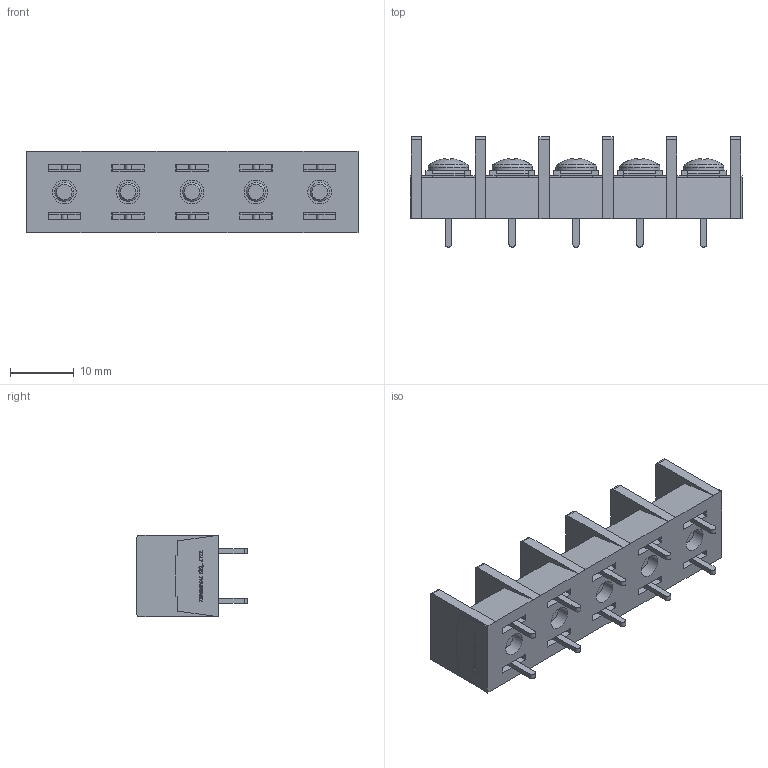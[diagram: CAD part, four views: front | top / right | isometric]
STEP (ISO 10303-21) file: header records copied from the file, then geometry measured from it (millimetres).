
FILE_DESCRIPTION(/* description */ ('Alibre Inc.'),/* implementation_level */ '2;1');
FILE_NAME(/* name */ 'export0',/* time_stamp */ '2015-10-23T18:01:48+09:00',/* author */ (''),/* organization */ (''),/* preprocessor_version */ 'ST-DEVELOPER v14',/* originating_system */ 'Alibre',/* authorisation */ '');
FILE_SCHEMA (('CONFIG_CONTROL_DESIGN'));
Length unit declared in the file: centimetre
Products named in the file (1): ID_1
Bounding box: 52 x 17.3 x 12.8 mm (x, y, z)
Volume: 4880.6 mm3; surface area: 5829.2 mm2
Topology: 1 solids, 86 shells, 1815 faces, 4675 edges, 3092 vertices
Faces by surface type: plane 1354, bspline 364, cylinder 57, cone 25, torus 10, sphere 5
Full cylindrical faces by diameter (mm): 3 x10, 3.7 x5, 4.6 x5, 6.3 x5
Entity records: 52611 total; most frequent: CARTESIAN_POINT 12777, ORIENTED_EDGE 9260, DIRECTION 5454, EDGE_CURVE 4630, VECTOR 3571, LINE 3571, VERTEX_POINT 3087, EDGE_LOOP 1985
